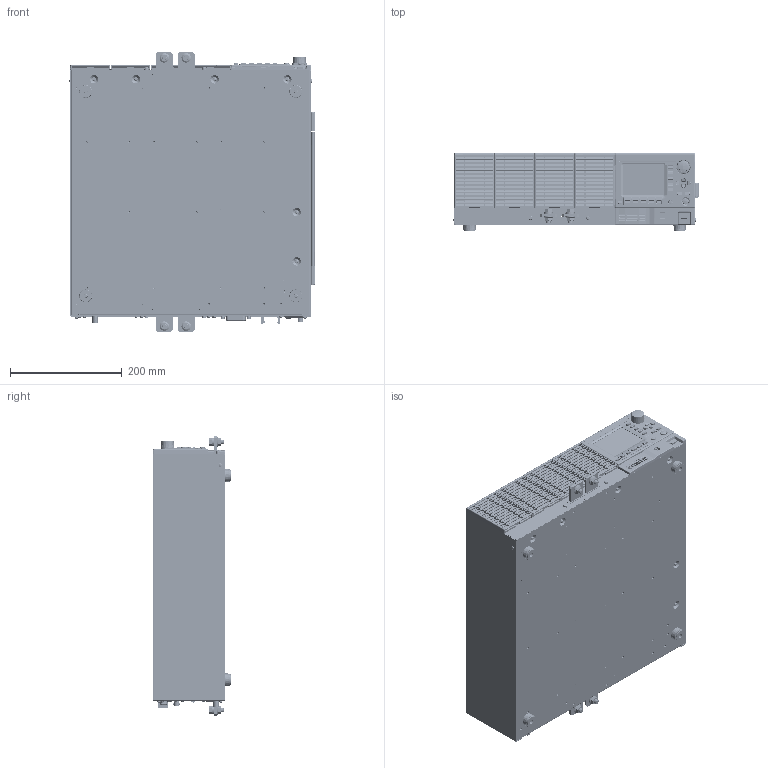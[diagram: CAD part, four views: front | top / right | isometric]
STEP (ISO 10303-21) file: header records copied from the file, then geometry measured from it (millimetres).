
FILE_DESCRIPTION(('Creo Elements/Direct Modeling STEP Export'),'2;1');
FILE_NAME('20200720_K04609S_SFL120-180-1K.stp','2020-07-20T21:16:33',(''),(''),'PTC Creo Elements/Direct Modeling STEP processor for AP214 (Solid Model)','PTC Creo Elements/Direct Modeling 19.0D 23-Nov-2015 (C) Parametric Technology GmbH','');
FILE_SCHEMA(('AUTOMOTIVE_DESIGN { 1 0 10303 214 1 1 1 1 }'));
Length unit declared in the file: millimetre
Products named in the file (153): CN4_TYC_5557560-1.1; SW_E-SW_5J-BUTTON.1; CN101_JST_UBBS-4R-D14-4D.1; SW1_NIK_MS-22AAV1.1; CN2_OSD_OCN-065-7P.1; 基板; スナップホールプラグ_SPH-500; シール; XBB-L_67_9764-22; nut; CN_MuC_XBB-L_67_9764-23; コネクタ; SW__NAT_AJ7200; スイッチ; IL_EDK_AC-P03CS05; インレット; 電気部品; 前裏パネル; ツマミ; 絶縁板_1000.1; ダクトステー; NT_KOM_HK-M3-2.3; KN_KOM_HK-M5-2; カシメナット; シャーシ; SP_KOM_CK-M4-8.4; SP_KOM_CK-M3-8.9; SP_KOM_CK-M3-11.3; セルフクリンチングスペーサー; 遮断ステー; 端子バーF_180.1; 端子バーR_180.1; 端子バー; カバー; 通気パネル.2; ラバースイッチ; 前パネル; LCD成型品; オプションブランク; FL_BRI_エバーライトSF_HB-13-5t.2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
Assembly tree (329 placements, depth 9):
  SFL120-180-1000
    オプション
      K04604S_LX-OP01_GPIB_OEM
        IEEEシール
        電気部品
          K-20248B_GPIB基板
            BOARD_PART
            PROF
            実装部品
              コネクタ
                CN5
                  CN5_JST_XHP-6
                  CN5_JST_B6B-XH-A
                CN4_OMR_XG4A-1639-A
                CN3_DDK_57LE-20240-7700D35G-CA
                CN2_JAE_TX24-50R-LT-H1E-R2
              PARTS
                U2
                U4  x2
                F3  x4
                PC10  x14
                U7  x2
                C31  x3
                L2  x2
                FU1
                C25
                U9  x3
                Q2  x2
                C26
                D2  x2
                L3  x2
                TP3  x5
                D9  x14
                U1
                L11
                L14  x4
                C34  x3
        機構部品
          ネジ
            ナットM2.6  x2
            M2.6×20小Wセムス  x2
            ナベネジ_M3×6小Wセムス.4  x6
            ナベM3×8小Wセムス  x4
        加工部品
          GPIBシャーシ
            スペーサー
              SP_KOM_CK-M3-5  x6
            シャーシ
      K04605S_LX-OP02_RC02_OEM
        ナベM3×8小Wセムス.9  x2
        CN_MuC_XBB-L_67_9764-22
          nut
          XBB-L_67_9764-22
    CE自己宣言書向けラベル
    後パネル
      カシメナット
        NT_KOM_HKS-M3-2.1  x5
      後パネル
    シート1000A
      前裏パネル_シート1000A
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Bounding box: 438.3 x 140.2 x 499 mm (x, y, z)
Volume: 1573928.3 mm3; surface area: 2075821.3 mm2
Topology: 285 solids, 293 shells, 26546 faces, 86159 edges, 61794 vertices
Faces by surface type: plane 19878, cylinder 4350, cone 914, bspline 667, torus 611, sphere 78, extrusion 48
Entity records: 886689 total; most frequent: CARTESIAN_POINT 218394, ORIENTED_EDGE 149022, DIRECTION 116410, EDGE_CURVE 74511, VECTOR 64998, LINE 64971, VERTEX_POINT 54603, AXIS2_PLACEMENT_3D 25706
